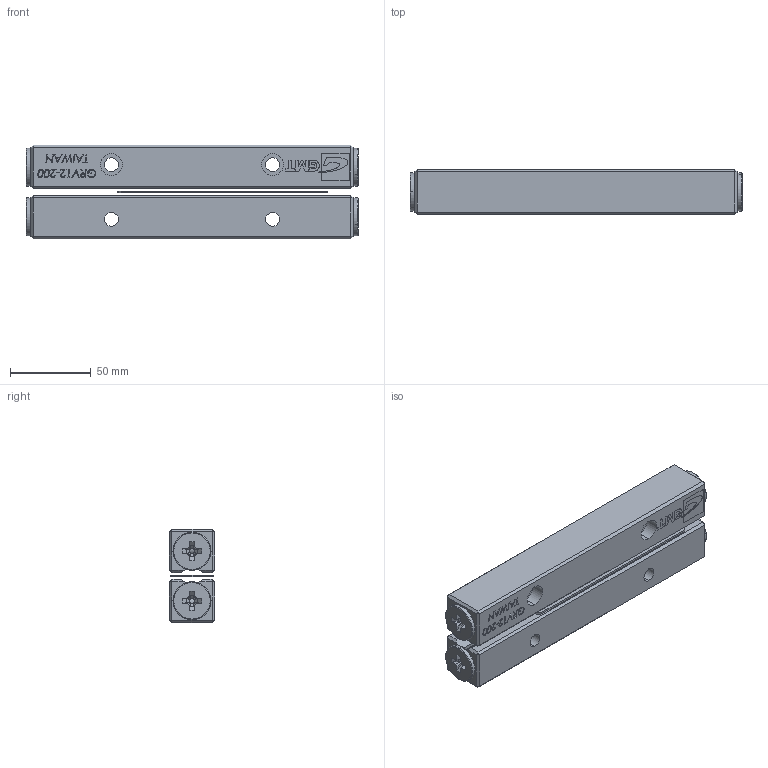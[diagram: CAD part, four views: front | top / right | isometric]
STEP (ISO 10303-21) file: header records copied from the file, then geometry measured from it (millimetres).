
FILE_DESCRIPTION (( 'STEP AP203' ), '1' );
FILE_NAME ('GRV12-200.STEP', '2012-10-17T05:15:21', ( '123' ), ( '' ), 'SwSTEP 2.0', 'SolidWorks 2012', '' );
FILE_SCHEMA (( 'CONFIG_CONTROL_DESIGN' ));
Length unit declared in the file: millimetre
Products named in the file (1): GRV12-200
Bounding box: 206 x 28 x 58 mm (x, y, z)
Surface area: 58717.9 mm2 (no closed solid volume)
Topology: 0 solids, 24 shells, 305 faces, 1562 edges, 1266 vertices
Faces by surface type: plane 228, cylinder 37, torus 16, bspline 12, cone 12
Entity records: 18910 total; most frequent: CARTESIAN_POINT 7086, DIRECTION 2210, ORIENTED_EDGE 2148, EDGE_CURVE 1558, VERTEX_POINT 1266, VECTOR 1030, LINE 1030, AXIS2_PLACEMENT_3D 590
